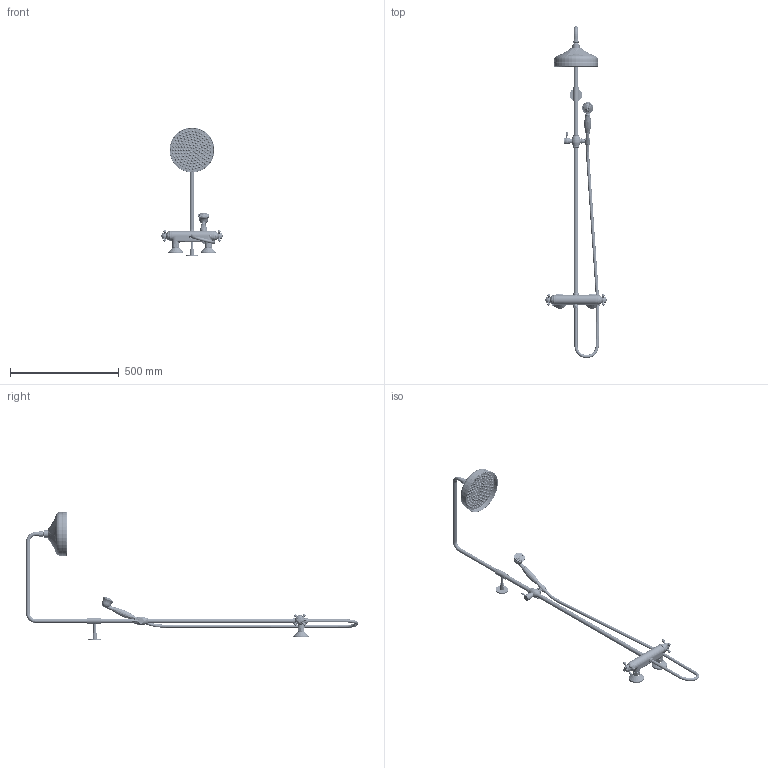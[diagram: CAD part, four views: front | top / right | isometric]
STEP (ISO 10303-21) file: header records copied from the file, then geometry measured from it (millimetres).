
FILE_DESCRIPTION((''),'2;1');
FILE_NAME('37930_STEP_ASM','2023-02-14T10:30:30',('sosm1'),(''),'CREO PARAMETRIC BY PTC INC, 2022244','CREO PARAMETRIC BY PTC INC, 2022244','');
FILE_SCHEMA(('CONFIG_CONTROL_DESIGN'));
Products named in the file (70): 42441--_1_1; 42442--_1_1; 42443--_1_1; 42444--_ASM_1_1_ASM; 42461--; 42459--_1_1; 42467--_1_1; 42459--_SUB01_ASM_1_1_ASM; 7988300_1_1; 42458--_SUB01_ASM_1_1_ASM; 42445--_1_1; 42446--_1_1; 42448--_ASM_1_1_ASM; 42448--_SUB01_ASM_1_1_ASM; 42457--_1_1; 42285--_AF0_1_1; 4201900_1_1; 4106600_1_1; 4106600_AF0_1_1; 4304000_AF0_ASM_1_1_ASM; 4303900_AF0_ASM_1_1_ASM; 43082--_POS1_1_1; 43082--_POS2_1_1; 43082--_POS3_1_1; 43082--_ASM_1_1_ASM; 44070--_DAMIXA_AF0_ASM_1_1_ASM; 4308100_TLB_ASM_1_1; 44071--_AF0_ASM_1_1_ASM; 42281--_AF0_1_1; 41961--_1_1; 41961--_SUB02_TMC_ASM_1_1_ASM; 4900100_AF0_1_1; 43059--_AF0_1_1; 43059--_SUB01_AF0_ASM_1_1_ASM; 43865--_1_1; 43859--_1_1; 43872--_1_1; 43867--_ASM_1_1_ASM; 43866--_1_1; 43860--_1_1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
Assembly tree (74 placements, depth 8):
  37930_STEP_ASM
    37930--00_ASM_1_1_ASM
      44071--_AF0_ASM_1_1_ASM
        44070--_DAMIXA_AF0_ASM_1_1_ASM
          4303900_AF0_ASM_1_1_ASM
            42444--_ASM_1_1_ASM
              42441--_1_1
              42442--_1_1
              42443--_1_1
            42458--_SUB01_ASM_1_1_ASM
              42461--
              42459--_SUB01_ASM_1_1_ASM
                42459--_1_1
                42467--_1_1
              7988300_1_1
            42448--_SUB01_ASM_1_1_ASM
              42448--_ASM_1_1_ASM
                42445--_1_1
                42446--_1_1
            42457--_1_1
            4304000_AF0_ASM_1_1_ASM
              42285--_AF0_1_1
              4201900_1_1
              4106600_1_1
              4106600_AF0_1_1
          43082--_ASM_1_1_ASM
            43082--_POS1_1_1
            43082--_POS2_1_1
            43082--_POS3_1_1
        4308100_TLB_ASM_1_1
      37413--00_AF0_ASM_1_1_ASM
        42281--_AF0_1_1
        41961--_SUB02_TMC_ASM_1_1_ASM  x2
          41961--_1_1
        4900100_AF0_1_1
        43059--_SUB01_AF0_ASM_1_1_ASM
          43059--_AF0_1_1
        43867--_ASM_1_1_ASM
          43865--_1_1
          43859--_1_1
          43872--_1_1
        43868--_ASM_1_1_ASM
          43866--_1_1
          43860--_1_1
          43872--_1_1
        19117--_1_1  x2
        1911120_1_1  x2
        37413--00_TILB_ASM_1_1_ASM
          69012--_ASM_1_1_ASM
            69265--_1_1  x2
      37206--00_AF0_ASM_1_1_ASM
        46058--_ASM_1_1_ASM
          19291--_POS1
          19291--_POS2_1_1
          19291--_POS3_1_1
          19291--_POS4_1_1
          19291--_POS5_1_1
          19291--_POS6_1_1
          19291--_SUB02_ASM_1_1_ASM
            19291--_POS7_1_1
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Bounding box: 281.6 x 1527.3 x 593.25 mm (x, y, z)
Volume: 735171.4 mm3; surface area: 801663.6 mm2
Topology: 50 solids, 50 shells, 6351 faces, 15534 edges, 9809 vertices
Faces by surface type: cylinder 2682, torus 1291, cone 1013, plane 974, bspline 324, sphere 63, revolution 4
Entity records: 262775 total; most frequent: CARTESIAN_POINT 111328, DIRECTION 33872, ORIENTED_EDGE 30188, EDGE_CURVE 15094, AXIS2_PLACEMENT_3D 14838, VERTEX_POINT 9587, CIRCLE 8752, EDGE_LOOP 7571
